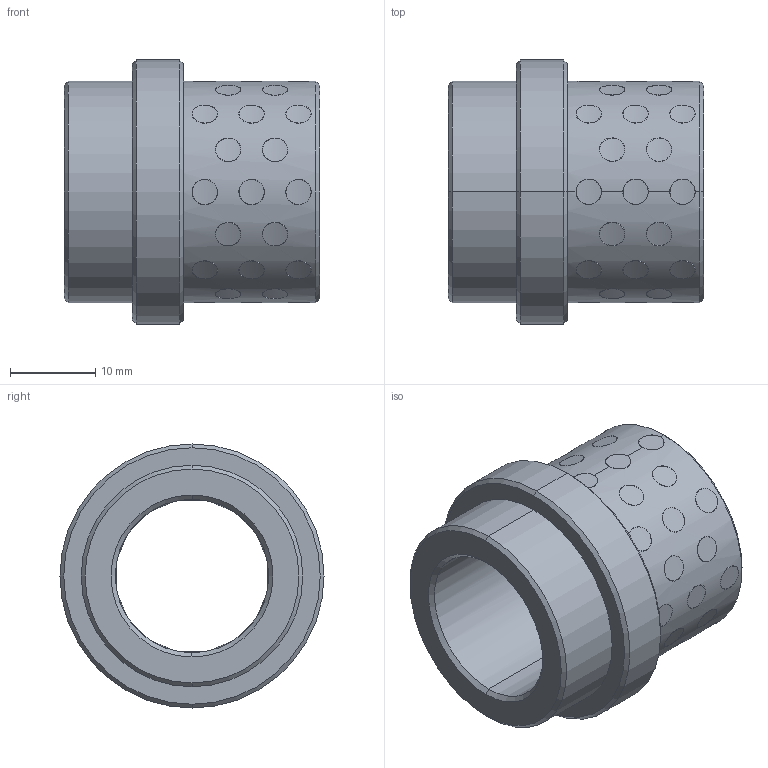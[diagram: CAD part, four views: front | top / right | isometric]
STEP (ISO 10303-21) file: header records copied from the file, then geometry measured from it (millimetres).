
FILE_DESCRIPTION((''),'2;1');
FILE_NAME('G31218022','2017-12-30T',('MANU'),(''),'PRO/ENGINEER BY PARAMETRIC TECHNOLOGY CORPORATION, 2012130','PRO/ENGINEER BY PARAMETRIC TECHNOLOGY CORPORATION, 2012130','');
FILE_SCHEMA(('CONFIG_CONTROL_DESIGN'));
Length unit declared in the file: millimetre
Products named in the file (1): G31218022
Bounding box: 30 x 31 x 31 mm (x, y, z)
Volume: 9550.4 mm3; surface area: 8101.7 mm2
Topology: 41 solids, 41 shells, 264 faces, 564 edges, 372 vertices
Faces by surface type: cylinder 248, cone 12, plane 4
Entity records: 11736 total; most frequent: CARTESIAN_POINT 6522, ORIENTED_EDGE 1128, DIRECTION 776, EDGE_CURVE 564, VERTEX_POINT 372, B_SPLINE_CURVE_WITH_KNOTS 344, EDGE_LOOP 336, AXIS2_PLACEMENT_3D 292
